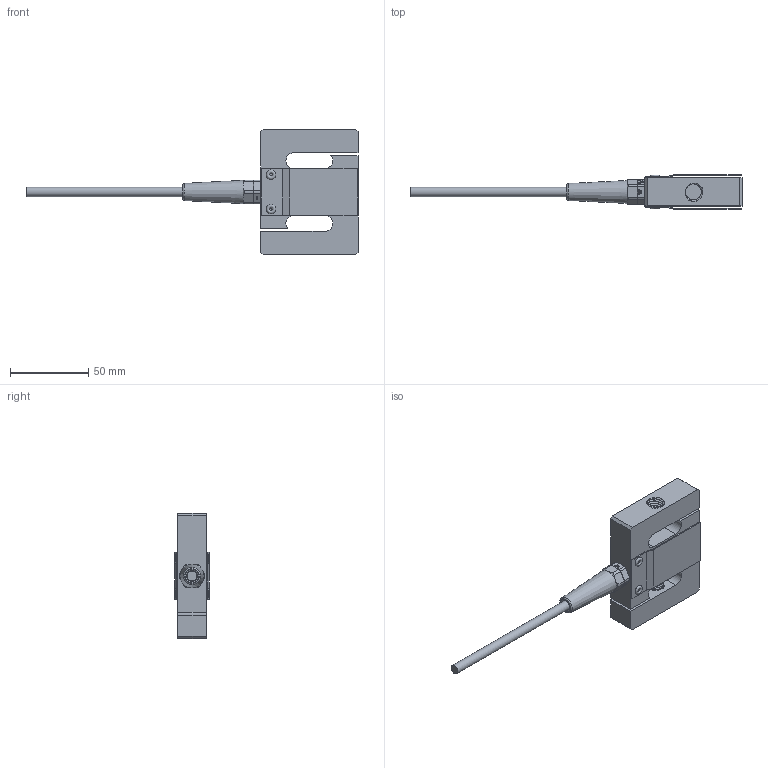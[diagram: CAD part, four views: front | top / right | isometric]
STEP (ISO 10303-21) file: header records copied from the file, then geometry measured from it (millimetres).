
FILE_DESCRIPTION(/* description */ (''),/* implementation_level */ '2;1');
FILE_NAME(/* name */ 'I:/New Datasheets/STEP Models/Pending models/DBBE 50kg to 1000kg.step',/* time_stamp */ '2019-06-07T16:33:00+01:00',/* author */ (''),/* organization */ (''),/* preprocessor_version */ 'ST-DEVELOPER v18',/* originating_system */ 'Autodesk Translation Framework v8.2.0.1029',/* authorisation */ '');
FILE_SCHEMA (('AUTOMOTIVE_DESIGN { 1 0 10303 214 3 1 1 }'));
Length unit declared in the file: millimetre
Products named in the file (2): DBBE; DBBE 50kg to 1000kg
Assembly tree (1 placements, depth 2):
  DBBE
    DBBE 50kg to 1000kg
Bounding box: 212.1 x 22 x 80 mm (x, y, z)
Volume: 86361.8 mm3; surface area: 32573.5 mm2
Topology: 3 solids, 6 shells, 506 faces, 1370 edges, 916 vertices
Faces by surface type: plane 322, cylinder 155, cone 15, torus 10, bspline 4
Full cylindrical faces by diameter (mm): 1.623 x4, 6 x1, 6.5 x1, 6.7 x1, 9.1 x1, 10.274 x16, 11 x1, 11.28 x2, 12.226 x16
Entity records: 20449 total; most frequent: CARTESIAN_POINT 7472, ORIENTED_EDGE 2738, DIRECTION 2614, EDGE_CURVE 1369, LINE 952, VECTOR 952, VERTEX_POINT 916, AXIS2_PLACEMENT_3D 831
